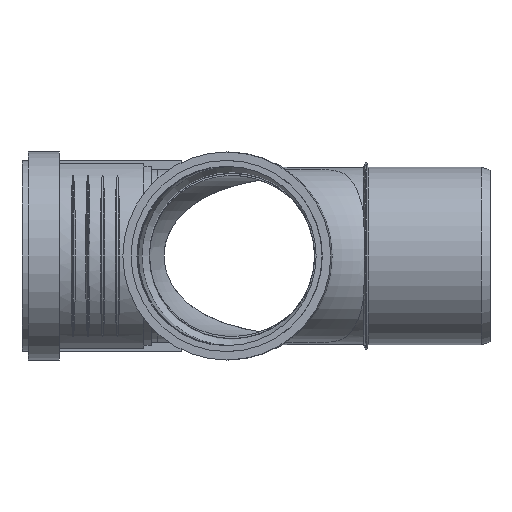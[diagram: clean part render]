
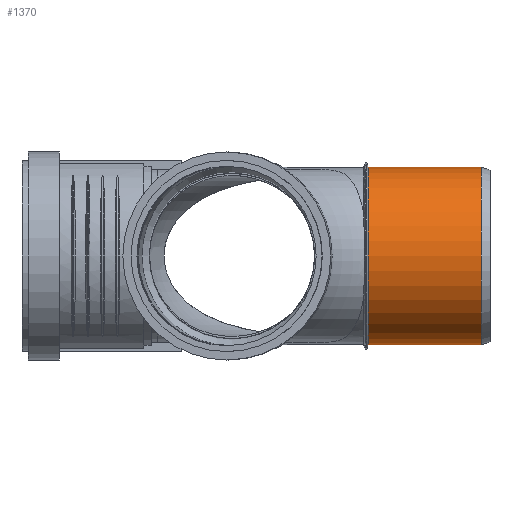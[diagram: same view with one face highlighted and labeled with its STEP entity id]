
A CAD part, left-side view. The second image highlights one B-rep face of the part: STEP entity #1370.
In plain terms, the highlighted cylindrical face has radius 45.1 mm (diameter 90.2 mm), a full revolution.
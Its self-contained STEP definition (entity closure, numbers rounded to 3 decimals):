
#152=FACE_BOUND($,#329,.T.);
#197=CYLINDRICAL_SURFACE($,#1487,45.1);
#236=FACE_OUTER_BOUND($,#328,.T.);
#328=EDGE_LOOP($,(#944));
#329=EDGE_LOOP($,(#945));
#445=CIRCLE($,#1486,45.1);
#446=CIRCLE($,#1488,45.1);
#591=VERTEX_POINT($,#2560);
#592=VERTEX_POINT($,#2563);
#735=EDGE_CURVE($,#591,#591,#445,.T.);
#736=EDGE_CURVE($,#592,#592,#446,.T.);
#944=ORIENTED_EDGE($,*,*,#735,.F.);
#945=ORIENTED_EDGE($,*,*,#736,.T.);
#1370=ADVANCED_FACE($,(#236,#152),#197,.T.);
#1486=AXIS2_PLACEMENT_3D($,#2561,#1702,#1703);
#1487=AXIS2_PLACEMENT_3D($,#2562,#1704,#1705);
#1488=AXIS2_PLACEMENT_3D($,#2564,#1706,#1707);
#1702=DIRECTION('center_axis',(0.,1.,0.));
#1703=DIRECTION('ref_axis',(-1.,0.,0.));
#1704=DIRECTION('center_axis',(0.,1.,0.));
#1705=DIRECTION('ref_axis',(-1.,0.,0.));
#1706=DIRECTION('center_axis',(0.,1.,0.));
#1707=DIRECTION('ref_axis',(-1.,0.,0.));
#2560=CARTESIAN_POINT('',(-45.1,62.,0.));
#2561=CARTESIAN_POINT('Origin',(0.,62.,0.));
#2562=CARTESIAN_POINT('Origin',(0.,33.25,0.));
#2563=CARTESIAN_POINT('',(-45.1,4.5,0.));
#2564=CARTESIAN_POINT('Origin',(0.,4.5,0.));
